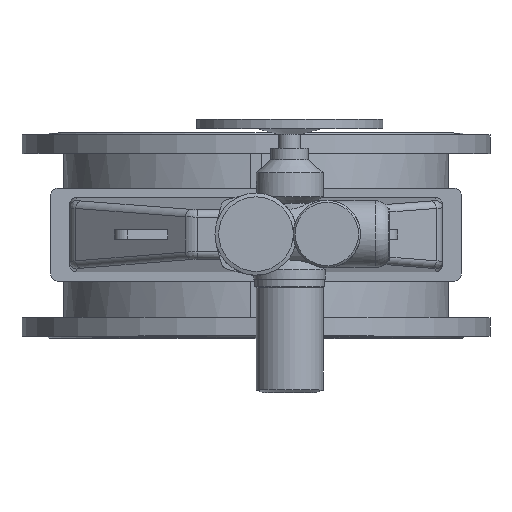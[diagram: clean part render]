
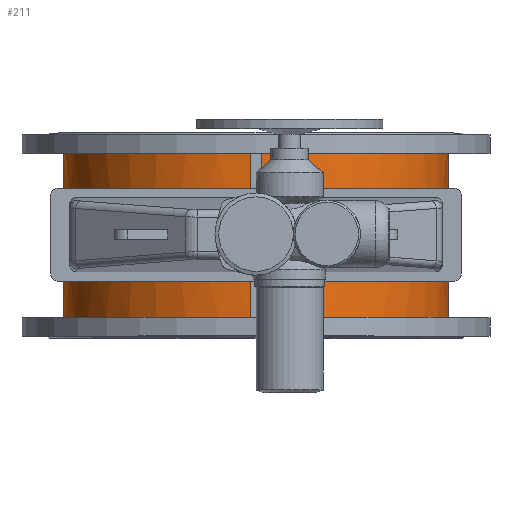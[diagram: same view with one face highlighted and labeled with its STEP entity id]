
A CAD part, top view. The second image highlights one B-rep face of the part: STEP entity #211.
In plain terms, the highlighted cylindrical face has radius 516 mm (diameter 1032 mm), a partial arc.
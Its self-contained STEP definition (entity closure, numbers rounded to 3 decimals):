
#211=ADVANCED_FACE('',(#3290,#3292),#3294,.T.);
#3290=FACE_BOUND('',#3291,.T.);
#3291=EDGE_LOOP('',(#8360,#8361,#8362,#8363,#8364,#8365,#8366,#8367,#8368,#8369,
#8370,#8371));
#3292=FACE_BOUND('',#3293,.T.);
#3293=EDGE_LOOP('',(#8372,#8373,#8374,#8375,#8376,#8377));
#3294=CYLINDRICAL_SURFACE('',#3295,516.);
#3295=AXIS2_PLACEMENT_3D('',#3296,#3297,#3298);
#3296=CARTESIAN_POINT('',(0.,-220.,0.));
#3297=DIRECTION('',(0.,1.,0.));
#3298=DIRECTION('',(0.,0.,1.));
#8360=ORIENTED_EDGE('',*,*,#9857,.F.);
#8361=ORIENTED_EDGE('',*,*,#9852,.F.);
#8362=ORIENTED_EDGE('',*,*,#9858,.F.);
#8363=ORIENTED_EDGE('',*,*,#9859,.F.);
#8364=ORIENTED_EDGE('',*,*,#9860,.F.);
#8365=ORIENTED_EDGE('',*,*,#9861,.F.);
#8366=ORIENTED_EDGE('',*,*,#9862,.F.);
#8367=ORIENTED_EDGE('',*,*,#9863,.F.);
#8368=ORIENTED_EDGE('',*,*,#9796,.F.);
#8369=ORIENTED_EDGE('',*,*,#9856,.F.);
#8370=ORIENTED_EDGE('',*,*,#9864,.F.);
#8371=ORIENTED_EDGE('',*,*,#9865,.T.);
#8372=ORIENTED_EDGE('',*,*,#9866,.T.);
#8373=ORIENTED_EDGE('',*,*,#9867,.F.);
#8374=ORIENTED_EDGE('',*,*,#9868,.F.);
#8375=ORIENTED_EDGE('',*,*,#9869,.F.);
#8376=ORIENTED_EDGE('',*,*,#9870,.F.);
#8377=ORIENTED_EDGE('',*,*,#9871,.F.);
#9796=EDGE_CURVE('',#10561,#10563,#10564,.T.);
#9852=EDGE_CURVE('',#10657,#10659,#10660,.T.);
#9856=EDGE_CURVE('',#10665,#10561,#10667,.T.);
#9857=EDGE_CURVE('',#10659,#10668,#10669,.F.);
#9858=EDGE_CURVE('',#10670,#10657,#10671,.F.);
#9859=EDGE_CURVE('',#10672,#10670,#10673,.F.);
#9860=EDGE_CURVE('',#10674,#10672,#10675,.F.);
#9861=EDGE_CURVE('',#10676,#10674,#10677,.T.);
#9862=EDGE_CURVE('',#10678,#10676,#10679,.T.);
#9863=EDGE_CURVE('',#10563,#10678,#10680,.F.);
#9864=EDGE_CURVE('',#10681,#10665,#10682,.T.);
#9865=EDGE_CURVE('',#10681,#10668,#10683,.T.);
#9866=EDGE_CURVE('',#10684,#10685,#10686,.T.);
#9867=EDGE_CURVE('',#10687,#10685,#10688,.F.);
#9868=EDGE_CURVE('',#10689,#10687,#10690,.F.);
#9869=EDGE_CURVE('',#10691,#10689,#10692,.T.);
#9870=EDGE_CURVE('',#10693,#10691,#10694,.T.);
#9871=EDGE_CURVE('',#10684,#10693,#10695,.T.);
#10561=VERTEX_POINT('',#11874);
#10563=VERTEX_POINT('',#11878);
#10564=LINE('',#11879,#11880);
#10657=VERTEX_POINT('',#12100);
#10659=VERTEX_POINT('',#12104);
#10660=(BOUNDED_CURVE()B_SPLINE_CURVE(3,
(#12105,#12106,#12107,#12108),
.UNSPECIFIED.,.F.,.F.)B_SPLINE_CURVE_WITH_KNOTS((4,4),
(0.,1.),
.UNSPECIFIED.)CURVE()GEOMETRIC_REPRESENTATION_ITEM()RATIONAL_B_SPLINE_CURVE((1.,
0.865,0.865,1.))REPRESENTATION_ITEM(''));
#10665=VERTEX_POINT('',#12117);
#10667=(BOUNDED_CURVE()B_SPLINE_CURVE(3,
(#12121,#12122,#12123,#12124),
.UNSPECIFIED.,.F.,.F.)B_SPLINE_CURVE_WITH_KNOTS((4,4),
(0.,1.),
.UNSPECIFIED.)CURVE()GEOMETRIC_REPRESENTATION_ITEM()RATIONAL_B_SPLINE_CURVE((1.,
0.865,0.865,1.))REPRESENTATION_ITEM(''));
#10668=VERTEX_POINT('',#12125);
#10669=LINE('',#12126,#12127);
#10670=VERTEX_POINT('',#12129);
#10671=LINE('',#12130,#12131);
#10672=VERTEX_POINT('',#12133);
#10673=(BOUNDED_CURVE()B_SPLINE_CURVE(3,
(#12134,#12135,#12136,#12137),
.UNSPECIFIED.,.F.,.F.)B_SPLINE_CURVE_WITH_KNOTS((4,4),
(0.,1.),
.UNSPECIFIED.)CURVE()GEOMETRIC_REPRESENTATION_ITEM()RATIONAL_B_SPLINE_CURVE((1.,
0.865,0.865,1.))REPRESENTATION_ITEM(''));
#10674=VERTEX_POINT('',#12138);
#10675=LINE('',#12139,#12140);
#10676=VERTEX_POINT('',#12142);
#10677=CIRCLE('',#12143,516.);
#10678=VERTEX_POINT('',#12147);
#10679=LINE('',#12148,#12149);
#10680=(BOUNDED_CURVE()B_SPLINE_CURVE(3,
(#12151,#12152,#12153,#12154),
.UNSPECIFIED.,.F.,.F.)B_SPLINE_CURVE_WITH_KNOTS((4,4),
(0.,1.),
.UNSPECIFIED.)CURVE()GEOMETRIC_REPRESENTATION_ITEM()RATIONAL_B_SPLINE_CURVE((1.,
0.865,0.865,1.))REPRESENTATION_ITEM(''));
#10681=VERTEX_POINT('',#12155);
#10682=LINE('',#12156,#12157);
#10683=CIRCLE('',#12159,516.);
#10684=VERTEX_POINT('',#12163);
#10685=VERTEX_POINT('',#12164);
#10686=LINE('',#12165,#12166);
#10687=VERTEX_POINT('',#12168);
#10688=(BOUNDED_CURVE()B_SPLINE_CURVE(3,
(#12169,#12170,#12171,#12172),
.UNSPECIFIED.,.F.,.F.)B_SPLINE_CURVE_WITH_KNOTS((4,4),
(0.,1.),
.UNSPECIFIED.)CURVE()GEOMETRIC_REPRESENTATION_ITEM()RATIONAL_B_SPLINE_CURVE((1.,
0.86,0.86,1.))REPRESENTATION_ITEM(''));
#10689=VERTEX_POINT('',#12173);
#10690=(BOUNDED_CURVE()B_SPLINE_CURVE(3,
(#12174,#12175,#12176,#12177),
.UNSPECIFIED.,.F.,.F.)B_SPLINE_CURVE_WITH_KNOTS((4,4),
(0.,1.),
.UNSPECIFIED.)CURVE()GEOMETRIC_REPRESENTATION_ITEM()RATIONAL_B_SPLINE_CURVE((1.,
0.86,0.86,1.))REPRESENTATION_ITEM(''));
#10691=VERTEX_POINT('',#12178);
#10692=LINE('',#12179,#12180);
#10693=VERTEX_POINT('',#12182);
#10694=(BOUNDED_CURVE()B_SPLINE_CURVE(3,
(#12183,#12184,#12185,#12186),
.UNSPECIFIED.,.F.,.F.)B_SPLINE_CURVE_WITH_KNOTS((4,4),
(0.,1.),
.UNSPECIFIED.)CURVE()GEOMETRIC_REPRESENTATION_ITEM()RATIONAL_B_SPLINE_CURVE((1.,
0.86,0.86,1.))REPRESENTATION_ITEM(''));
#10695=(BOUNDED_CURVE()B_SPLINE_CURVE(3,
(#12187,#12188,#12189,#12190),
.UNSPECIFIED.,.F.,.F.)B_SPLINE_CURVE_WITH_KNOTS((4,4),
(0.,1.),
.UNSPECIFIED.)CURVE()GEOMETRIC_REPRESENTATION_ITEM()RATIONAL_B_SPLINE_CURVE((1.,
0.86,0.86,1.))REPRESENTATION_ITEM(''));
#11874=CARTESIAN_POINT('',(500.,-83.31,127.499));
#11878=CARTESIAN_POINT('',(500.,83.31,127.499));
#11879=CARTESIAN_POINT('',(500.,-83.31,127.499));
#11880=VECTOR('',#11881,1.);
#11881=DIRECTION('',(0.,1.,0.));
#12100=CARTESIAN_POINT('',(-500.,-83.31,127.499));
#12104=CARTESIAN_POINT('',(-14.,-88.324,515.81));
#12105=CARTESIAN_POINT('',(-500.,-83.31,127.499));
#12106=CARTESIAN_POINT('',(-440.785,-86.308,359.716));
#12107=CARTESIAN_POINT('',(-253.56,-88.24,509.308));
#12108=CARTESIAN_POINT('',(-14.,-88.324,515.81));
#12117=CARTESIAN_POINT('',(14.,-88.324,515.81));
#12121=CARTESIAN_POINT('',(14.,-88.324,515.81));
#12122=CARTESIAN_POINT('',(253.56,-88.24,509.308));
#12123=CARTESIAN_POINT('',(440.785,-86.308,359.716));
#12124=CARTESIAN_POINT('',(500.,-83.31,127.499));
#12125=CARTESIAN_POINT('',(-14.,-220.,515.81));
#12126=CARTESIAN_POINT('',(-14.,-220.,515.81));
#12127=VECTOR('',#12128,1.);
#12128=DIRECTION('',(0.,1.,0.));
#12129=CARTESIAN_POINT('',(-500.,83.31,127.499));
#12130=CARTESIAN_POINT('',(-500.,-83.31,127.499));
#12131=VECTOR('',#12132,1.);
#12132=DIRECTION('',(0.,1.,0.));
#12133=CARTESIAN_POINT('',(-14.,88.324,515.81));
#12134=CARTESIAN_POINT('',(-500.,83.31,127.499));
#12135=CARTESIAN_POINT('',(-440.785,86.308,359.716));
#12136=CARTESIAN_POINT('',(-253.56,88.24,509.308));
#12137=CARTESIAN_POINT('',(-14.,88.324,515.81));
#12138=CARTESIAN_POINT('',(-14.,220.,515.81));
#12139=CARTESIAN_POINT('',(-14.,88.324,515.81));
#12140=VECTOR('',#12141,1.);
#12141=DIRECTION('',(0.,1.,0.));
#12142=CARTESIAN_POINT('',(14.,220.,515.81));
#12143=AXIS2_PLACEMENT_3D('',#12144,#12145,#12146);
#12144=CARTESIAN_POINT('',(0.,220.,0.));
#12145=DIRECTION('',(0.,1.,0.));
#12146=DIRECTION('',(0.027,0.,1.));
#12147=CARTESIAN_POINT('',(14.,88.324,515.81));
#12148=CARTESIAN_POINT('',(14.,88.324,515.81));
#12149=VECTOR('',#12150,1.);
#12150=DIRECTION('',(0.,1.,0.));
#12151=CARTESIAN_POINT('',(14.,88.324,515.81));
#12152=CARTESIAN_POINT('',(253.56,88.24,509.308));
#12153=CARTESIAN_POINT('',(440.785,86.308,359.716));
#12154=CARTESIAN_POINT('',(500.,83.31,127.499));
#12155=CARTESIAN_POINT('',(14.,-220.,515.81));
#12156=CARTESIAN_POINT('',(14.,-220.,515.81));
#12157=VECTOR('',#12158,1.);
#12158=DIRECTION('',(0.,1.,0.));
#12159=AXIS2_PLACEMENT_3D('',#12160,#12161,#12162);
#12160=CARTESIAN_POINT('',(0.,-220.,0.));
#12161=DIRECTION('',(0.,1.,0.));
#12162=DIRECTION('',(0.027,0.,1.));
#12163=CARTESIAN_POINT('',(500.,-80.017,-127.499));
#12164=CARTESIAN_POINT('',(500.,80.017,-127.499));
#12165=CARTESIAN_POINT('',(500.,-80.017,-127.499));
#12166=VECTOR('',#12167,1.);
#12167=DIRECTION('',(0.,1.,0.));
#12168=CARTESIAN_POINT('',(0.,75.,-516.));
#12169=CARTESIAN_POINT('',(500.,80.017,-127.499));
#12170=CARTESIAN_POINT('',(439.342,76.945,-365.377));
#12171=CARTESIAN_POINT('',(245.49,75.,-516.));
#12172=CARTESIAN_POINT('',(0.,75.,-516.));
#12173=CARTESIAN_POINT('',(-500.,80.017,-127.499));
#12174=CARTESIAN_POINT('',(0.,75.,-516.));
#12175=CARTESIAN_POINT('',(-245.49,75.,-516.));
#12176=CARTESIAN_POINT('',(-439.342,76.945,-365.377));
#12177=CARTESIAN_POINT('',(-500.,80.017,-127.499));
#12178=CARTESIAN_POINT('',(-500.,-80.017,-127.499));
#12179=CARTESIAN_POINT('',(-500.,-80.017,-127.499));
#12180=VECTOR('',#12181,1.);
#12181=DIRECTION('',(0.,1.,0.));
#12182=CARTESIAN_POINT('',(0.,-75.,-516.));
#12183=CARTESIAN_POINT('',(0.,-75.,-516.));
#12184=CARTESIAN_POINT('',(-245.49,-75.,-516.));
#12185=CARTESIAN_POINT('',(-439.342,-76.945,-365.377));
#12186=CARTESIAN_POINT('',(-500.,-80.017,-127.499));
#12187=CARTESIAN_POINT('',(500.,-80.017,-127.499));
#12188=CARTESIAN_POINT('',(439.342,-76.945,-365.377));
#12189=CARTESIAN_POINT('',(245.49,-75.,-516.));
#12190=CARTESIAN_POINT('',(0.,-75.,-516.));
